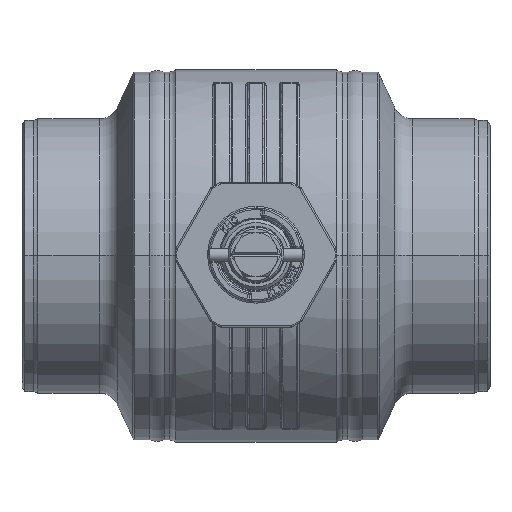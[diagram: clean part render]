
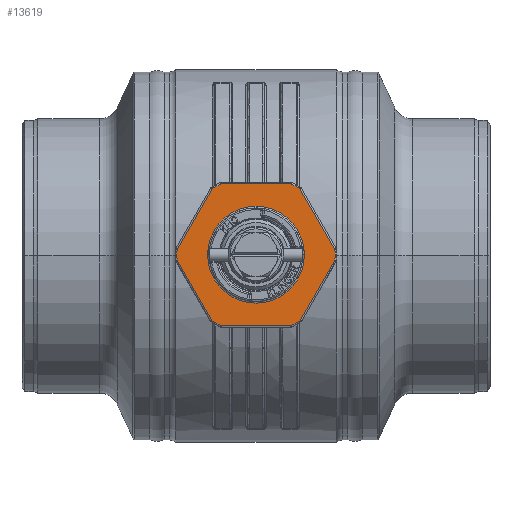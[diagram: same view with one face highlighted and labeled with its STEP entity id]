
A CAD part, top view. The second image highlights one B-rep face of the part: STEP entity #13619.
In plain terms, the highlighted planar face has unit normal (0, 0, 1).
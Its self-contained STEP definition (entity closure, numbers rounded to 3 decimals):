
#1518=CARTESIAN_POINT('',(0.,0.,444.));
#1519=DIRECTION('',(0.,0.,-1.));
#1520=DIRECTION('',(-0.558,0.83,0.));
#1521=AXIS2_PLACEMENT_3D('',#1518,#1519,#1520);
#1523=DIRECTION('',(-1.,0.,0.));
#1524=VECTOR('',#1523,43.128);
#1525=CARTESIAN_POINT('',(21.564,44.,444.));
#1526=LINE('',#1525,#1524);
#1527=CARTESIAN_POINT('',(0.,0.,444.));
#1528=DIRECTION('',(0.,0.,1.));
#1529=DIRECTION('',(0.558,0.83,0.));
#1530=AXIS2_PLACEMENT_3D('',#1527,#1528,#1529);
#1532=DIRECTION('',(-0.5,0.866,0.));
#1533=VECTOR('',#1532,43.128);
#1534=CARTESIAN_POINT('',(48.887,3.325,444.));
#1535=LINE('',#1534,#1533);
#1536=CARTESIAN_POINT('',(0.,0.,444.));
#1537=DIRECTION('',(0.,0.,1.));
#1538=DIRECTION('',(0.998,-0.068,0.));
#1539=AXIS2_PLACEMENT_3D('',#1536,#1537,#1538);
#1541=DIRECTION('',(0.5,0.866,0.));
#1542=VECTOR('',#1541,43.128);
#1543=CARTESIAN_POINT('',(27.323,-40.675,444.));
#1544=LINE('',#1543,#1542);
#1545=CARTESIAN_POINT('',(0.,0.,444.));
#1546=DIRECTION('',(0.,0.,1.));
#1547=DIRECTION('',(0.44,-0.898,0.));
#1548=AXIS2_PLACEMENT_3D('',#1545,#1546,#1547);
#1550=DIRECTION('',(1.,0.,0.));
#1551=VECTOR('',#1550,43.128);
#1552=CARTESIAN_POINT('',(-21.564,-44.,444.));
#1553=LINE('',#1552,#1551);
#1554=CARTESIAN_POINT('',(0.,0.,444.));
#1555=DIRECTION('',(0.,0.,1.));
#1556=DIRECTION('',(-0.558,-0.83,0.));
#1557=AXIS2_PLACEMENT_3D('',#1554,#1555,#1556);
#1559=DIRECTION('',(0.5,-0.866,0.));
#1560=VECTOR('',#1559,43.128);
#1561=CARTESIAN_POINT('',(-48.887,-3.325,444.));
#1562=LINE('',#1561,#1560);
#1563=CARTESIAN_POINT('',(0.,0.,444.));
#1564=DIRECTION('',(0.,0.,-1.));
#1565=DIRECTION('',(-0.998,-0.068,0.));
#1566=AXIS2_PLACEMENT_3D('',#1563,#1564,#1565);
#1568=DIRECTION('',(-0.5,-0.866,0.));
#1569=VECTOR('',#1568,43.128);
#1570=CARTESIAN_POINT('',(-27.323,40.675,444.));
#1571=LINE('',#1570,#1569);
#1572=CARTESIAN_POINT('',(0.,0.,444.));
#1573=DIRECTION('',(0.,0.,1.));
#1574=DIRECTION('',(1.,0.,0.));
#1575=AXIS2_PLACEMENT_3D('',#1572,#1573,#1574);
#1577=CARTESIAN_POINT('',(0.,0.,444.));
#1578=DIRECTION('',(0.,0.,1.));
#1579=DIRECTION('',(-1.,0.,0.));
#1580=AXIS2_PLACEMENT_3D('',#1577,#1578,#1579);
#11116=CARTESIAN_POINT('',(30.,0.,444.));
#11117=CARTESIAN_POINT('',(-30.,0.,444.));
#11118=VERTEX_POINT('',#11116);
#11119=VERTEX_POINT('',#11117);
#11298=CARTESIAN_POINT('',(-48.887,-3.325,444.));
#11299=CARTESIAN_POINT('',(-48.887,3.325,444.));
#11300=VERTEX_POINT('',#11298);
#11301=VERTEX_POINT('',#11299);
#11322=CARTESIAN_POINT('',(-27.323,40.675,444.));
#11323=VERTEX_POINT('',#11322);
#11324=CARTESIAN_POINT('',(-21.564,44.,444.));
#11325=VERTEX_POINT('',#11324);
#11343=CARTESIAN_POINT('',(-27.323,-40.675,444.));
#11345=VERTEX_POINT('',#11343);
#11348=CARTESIAN_POINT('',(-21.564,-44.,444.));
#11349=VERTEX_POINT('',#11348);
#11354=CARTESIAN_POINT('',(21.564,-44.,444.));
#11355=VERTEX_POINT('',#11354);
#11360=CARTESIAN_POINT('',(27.323,-40.675,444.));
#11361=VERTEX_POINT('',#11360);
#11366=CARTESIAN_POINT('',(48.887,-3.325,444.));
#11367=VERTEX_POINT('',#11366);
#11372=CARTESIAN_POINT('',(48.887,3.325,444.));
#11373=VERTEX_POINT('',#11372);
#11378=CARTESIAN_POINT('',(27.323,40.675,444.));
#11379=VERTEX_POINT('',#11378);
#11384=CARTESIAN_POINT('',(21.564,44.,444.));
#11385=VERTEX_POINT('',#11384);
#13583=CARTESIAN_POINT('',(0.,0.,444.));
#13584=DIRECTION('',(0.,0.,1.));
#13585=DIRECTION('',(1.,0.,0.));
#13586=AXIS2_PLACEMENT_3D('',#13583,#13584,#13585);
#13587=PLANE('',#13586);
#13589=ORIENTED_EDGE('',*,*,#13588,.T.);
#13591=ORIENTED_EDGE('',*,*,#13590,.F.);
#13593=ORIENTED_EDGE('',*,*,#13592,.F.);
#13595=ORIENTED_EDGE('',*,*,#13594,.F.);
#13597=ORIENTED_EDGE('',*,*,#13596,.F.);
#13599=ORIENTED_EDGE('',*,*,#13598,.F.);
#13601=ORIENTED_EDGE('',*,*,#13600,.F.);
#13603=ORIENTED_EDGE('',*,*,#13602,.F.);
#13605=ORIENTED_EDGE('',*,*,#13604,.F.);
#13607=ORIENTED_EDGE('',*,*,#13606,.F.);
#13609=ORIENTED_EDGE('',*,*,#13608,.T.);
#13611=ORIENTED_EDGE('',*,*,#13610,.F.);
#13612=EDGE_LOOP('',(#13589,#13591,#13593,#13595,#13597,#13599,#13601,#13603,
#13605,#13607,#13609,#13611));
#13613=FACE_OUTER_BOUND('',#13612,.F.);
#13615=ORIENTED_EDGE('',*,*,#13614,.T.);
#13616=ORIENTED_EDGE('',*,*,#13573,.T.);
#13617=EDGE_LOOP('',(#13615,#13616));
#13618=FACE_BOUND('',#13617,.F.);
#1522=CIRCLE('',#1521,49.);
#1531=CIRCLE('',#1530,49.);
#1540=CIRCLE('',#1539,49.);
#1549=CIRCLE('',#1548,49.);
#1558=CIRCLE('',#1557,49.);
#1567=CIRCLE('',#1566,49.);
#1576=CIRCLE('',#1575,30.);
#1581=CIRCLE('',#1580,30.);
#13573=EDGE_CURVE('',#11119,#11118,#1581,.T.);
#13588=EDGE_CURVE('',#11323,#11325,#1522,.T.);
#13590=EDGE_CURVE('',#11385,#11325,#1526,.T.);
#13592=EDGE_CURVE('',#11379,#11385,#1531,.T.);
#13594=EDGE_CURVE('',#11373,#11379,#1535,.T.);
#13596=EDGE_CURVE('',#11367,#11373,#1540,.T.);
#13598=EDGE_CURVE('',#11361,#11367,#1544,.T.);
#13600=EDGE_CURVE('',#11355,#11361,#1549,.T.);
#13602=EDGE_CURVE('',#11349,#11355,#1553,.T.);
#13604=EDGE_CURVE('',#11345,#11349,#1558,.T.);
#13606=EDGE_CURVE('',#11300,#11345,#1562,.T.);
#13608=EDGE_CURVE('',#11300,#11301,#1567,.T.);
#13610=EDGE_CURVE('',#11323,#11301,#1571,.T.);
#13614=EDGE_CURVE('',#11118,#11119,#1576,.T.);
#13619=ADVANCED_FACE('',(#13613,#13618),#13587,.T.);
